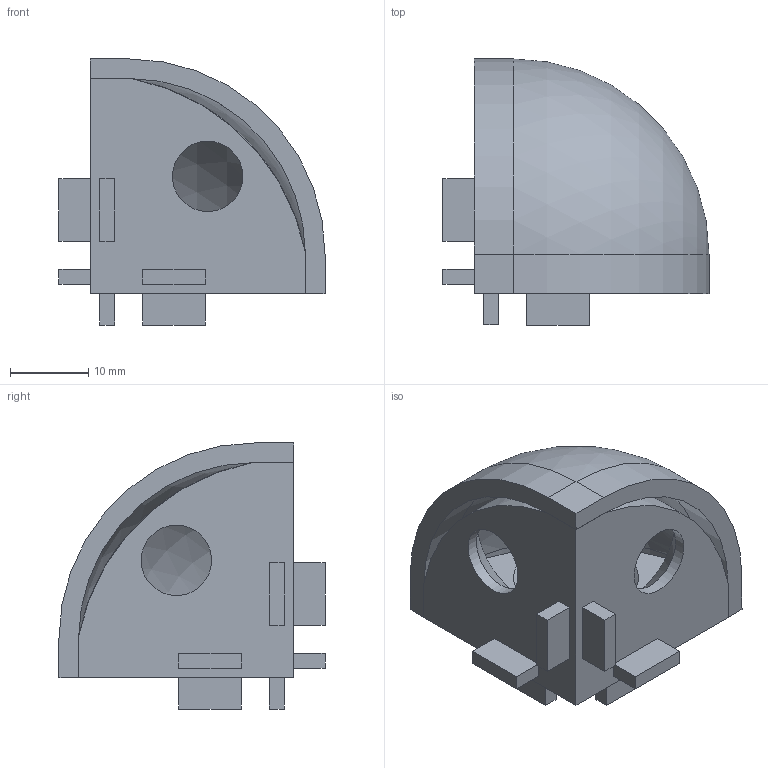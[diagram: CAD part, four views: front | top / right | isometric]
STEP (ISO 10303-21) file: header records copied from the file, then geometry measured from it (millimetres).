
FILE_DESCRIPTION((''),'2;1');
FILE_NAME('E:\catalogue and flyer\Profile catalogue 2015\Accessories JE info\Accessories-JE step file 31MAr16\JE-30CR Joint-8.stp','2016-03-31T15:26:26',('h029'),(''),'Autodesk Inventor 11','Autodesk Inventor 11','');
FILE_SCHEMA(('AUTOMOTIVE_DESIGN { 1 0 10303 214 1 1 1 1 }'));
Length unit declared in the file: millimetre
Products named in the file (3): JE-30CR Joint-8; 3-Way Connection Angle; cover
Assembly tree (2 placements, depth 2):
  JE-30CR Joint-8
    3-Way Connection Angle
    cover
Bounding box: 34 x 34 x 34 mm (x, y, z)
Volume: 9817.6 mm3; surface area: 7266.4 mm2
Topology: 2 solids, 2 shells, 65 faces, 167 edges, 107 vertices
Faces by surface type: plane 48, cylinder 12, bspline 3, sphere 2
Full cylindrical faces by diameter (mm): 9 x3
Entity records: 2053 total; most frequent: CARTESIAN_POINT 426, DIRECTION 317, ORIENTED_EDGE 312, EDGE_CURVE 156, VECTOR 123, LINE 123, VERTEX_POINT 104, AXIS2_PLACEMENT_3D 97
